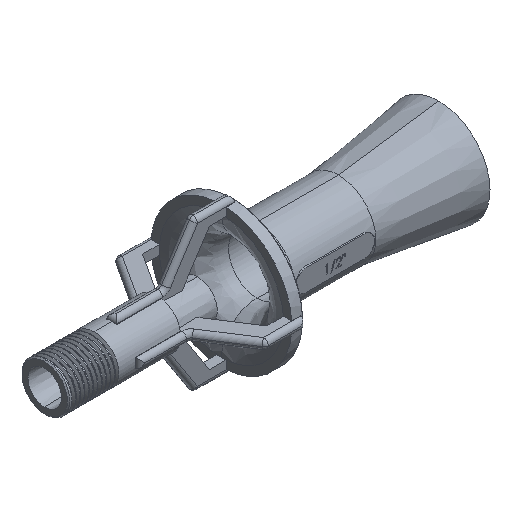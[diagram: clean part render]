
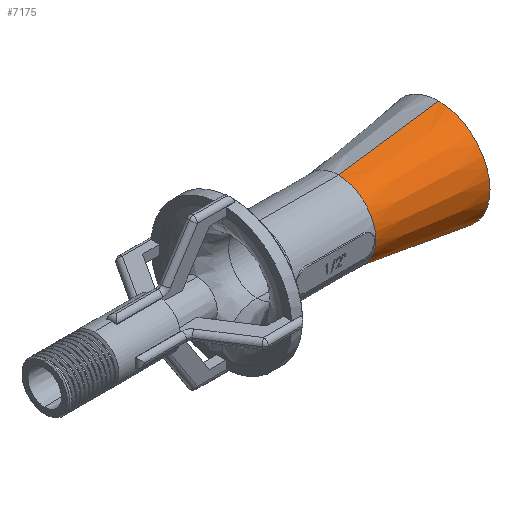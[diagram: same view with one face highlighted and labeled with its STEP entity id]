
A CAD part, isometric view. The second image highlights one B-rep face of the part: STEP entity #7175.
In plain terms, the highlighted conical face has half-angle 7.9 degrees and reference radius 21.5 mm.
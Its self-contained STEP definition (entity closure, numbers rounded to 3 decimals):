
#327 = CIRCLE ( 'NONE', #5721, 21.5 ) ;
#382 = LINE ( 'NONE', #12159, #9980 ) ;
#481 = CARTESIAN_POINT ( 'NONE',  ( 165., 0., 0. ) ) ;
#665 = DIRECTION ( 'NONE',  ( 0.991, 0., 0.137 ) ) ;
#762 = ORIENTED_EDGE ( 'NONE', *, *, #15871, .F. ) ;
#950 = VERTEX_POINT ( 'NONE', #9706 ) ;
#1128 = VERTEX_POINT ( 'NONE', #6176 ) ;
#1428 = CARTESIAN_POINT ( 'NONE',  ( 123., 0., 15.672 ) ) ;
#1852 = DIRECTION ( 'NONE',  ( 0., 0., -1. ) ) ;
#2178 = ORIENTED_EDGE ( 'NONE', *, *, #8049, .T. ) ;
#2310 = ORIENTED_EDGE ( 'NONE', *, *, #2434, .T. ) ;
#2434 = EDGE_CURVE ( 'NONE', #4491, #1128, #327, .T. ) ;
#2877 = CARTESIAN_POINT ( 'NONE',  ( 165., 0., -21.5 ) ) ;
#3197 = CARTESIAN_POINT ( 'NONE',  ( 123., 0., 0. ) ) ;
#3489 = ORIENTED_EDGE ( 'NONE', *, *, #13833, .F. ) ;
#4430 = VERTEX_POINT ( 'NONE', #1428 ) ;
#4491 = VERTEX_POINT ( 'NONE', #2877 ) ;
#5721 = AXIS2_PLACEMENT_3D ( 'NONE', #16205, #13797, #15006 ) ;
#6176 = CARTESIAN_POINT ( 'NONE',  ( 165., 0., 21.5 ) ) ;
#6800 = LINE ( 'NONE', #14300, #8945 ) ;
#7175 = ADVANCED_FACE ( 'NONE', ( #15882 ), #8409, .T. ) ;
#7254 = DIRECTION ( 'NONE',  ( 0.991, 0., -0.137 ) ) ;
#8049 = EDGE_CURVE ( 'NONE', #950, #4491, #382, .T. ) ;
#8409 = CONICAL_SURFACE ( 'NONE', #9966, 21.5, 0.138 ) ;
#8945 = VECTOR ( 'NONE', #665, 1000. ) ;
#8953 = AXIS2_PLACEMENT_3D ( 'NONE', #3197, #9280, #14271 ) ;
#9280 = DIRECTION ( 'NONE',  ( -1., 0., 0. ) ) ;
#9706 = CARTESIAN_POINT ( 'NONE',  ( 123., 0., -15.672 ) ) ;
#9966 = AXIS2_PLACEMENT_3D ( 'NONE', #481, #10614, #1852 ) ;
#9980 = VECTOR ( 'NONE', #7254, 1000. ) ;
#10614 = DIRECTION ( 'NONE',  ( 1., 0., 0. ) ) ;
#12159 = CARTESIAN_POINT ( 'NONE',  ( 165., 0., -21.5 ) ) ;
#13672 = EDGE_LOOP ( 'NONE', ( #762, #3489, #2178, #2310 ) ) ;
#13797 = DIRECTION ( 'NONE',  ( -1., 0., 0. ) ) ;
#13833 = EDGE_CURVE ( 'NONE', #950, #4430, #15962, .T. ) ;
#14271 = DIRECTION ( 'NONE',  ( 0., 0., 1. ) ) ;
#14300 = CARTESIAN_POINT ( 'NONE',  ( 165., 0., 21.5 ) ) ;
#15006 = DIRECTION ( 'NONE',  ( 0., 0., 1. ) ) ;
#15871 = EDGE_CURVE ( 'NONE', #4430, #1128, #6800, .T. ) ;
#15882 = FACE_OUTER_BOUND ( 'NONE', #13672, .T. ) ;
#15962 = CIRCLE ( 'NONE', #8953, 15.672 ) ;
#16205 = CARTESIAN_POINT ( 'NONE',  ( 165., 0., 0. ) ) ;
